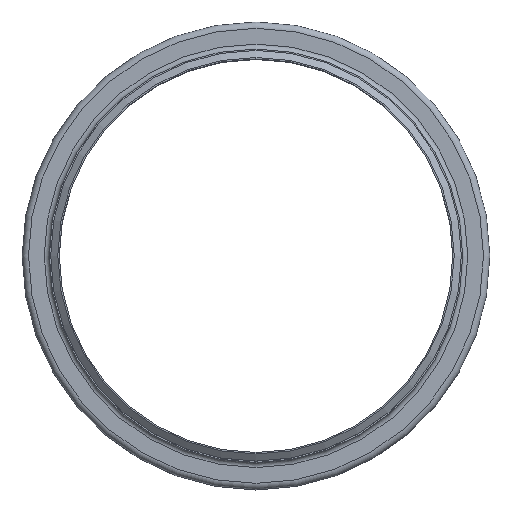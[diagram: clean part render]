
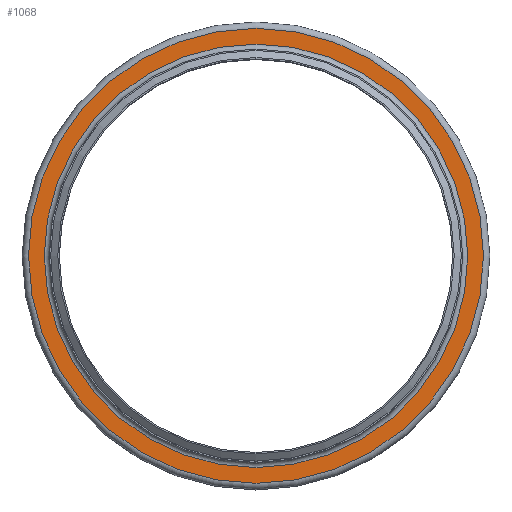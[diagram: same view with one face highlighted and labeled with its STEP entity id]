
A CAD part, top view. The second image highlights one B-rep face of the part: STEP entity #1068.
In plain terms, the highlighted planar face has unit normal (0, 0, 1).
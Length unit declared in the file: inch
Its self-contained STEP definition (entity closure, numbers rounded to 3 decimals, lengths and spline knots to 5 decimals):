
#102=FACE_BOUND('',#282,.T.);
#171=FACE_OUTER_BOUND('',#281,.T.);
#281=EDGE_LOOP('',(#824));
#282=EDGE_LOOP('',(#825));
#402=CIRCLE('',#1264,9.28);
#403=CIRCLE('',#1266,9.97);
#491=VERTEX_POINT('',#1935);
#492=VERTEX_POINT('',#1939);
#606=EDGE_CURVE('',#491,#491,#402,.T.);
#607=EDGE_CURVE('',#492,#492,#403,.T.);
#824=ORIENTED_EDGE('',*,*,#607,.F.);
#825=ORIENTED_EDGE('',*,*,#606,.T.);
#918=PLANE('',#1265);
#1068=ADVANCED_FACE('',(#171,#102),#918,.T.);
#1264=AXIS2_PLACEMENT_3D('',#1937,#1621,#1622);
#1265=AXIS2_PLACEMENT_3D('',#1938,#1623,#1624);
#1266=AXIS2_PLACEMENT_3D('',#1940,#1625,#1626);
#1621=DIRECTION('center_axis',(0.,0.,
-1.));
#1622=DIRECTION('ref_axis',(1.,0.,0.));
#1623=DIRECTION('center_axis',(0.,0.,
1.));
#1624=DIRECTION('ref_axis',(1.,0.,0.));
#1625=DIRECTION('center_axis',(0.,0.,
-1.));
#1626=DIRECTION('ref_axis',(1.,0.,0.));
#1935=CARTESIAN_POINT('',(9.28,0.,-1.72));
#1937=CARTESIAN_POINT('Origin',(0.,0.,
-1.72));
#1938=CARTESIAN_POINT('Origin',(0.,9.97,-1.72));
#1939=CARTESIAN_POINT('',(9.97,0.,-1.72));
#1940=CARTESIAN_POINT('Origin',(0.,0.,
-1.72));
